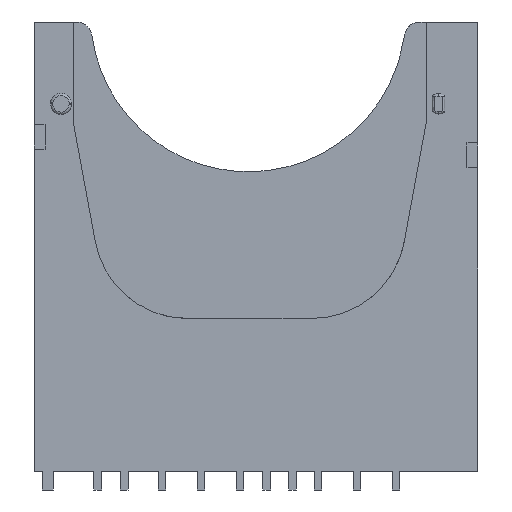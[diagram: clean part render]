
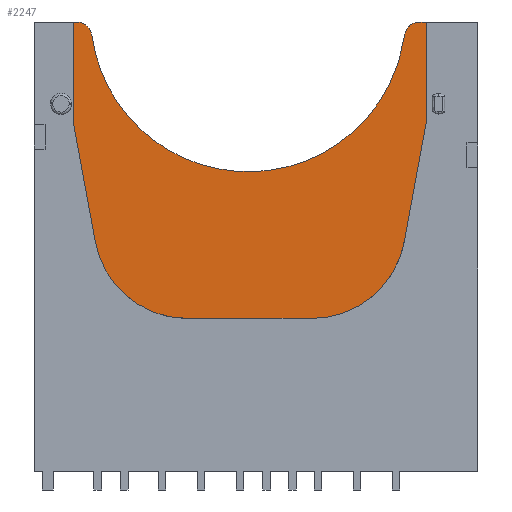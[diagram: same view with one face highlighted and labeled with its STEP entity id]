
A CAD part, front view. The second image highlights one B-rep face of the part: STEP entity #2247.
In plain terms, the highlighted planar face has unit normal (0, -1, 0).
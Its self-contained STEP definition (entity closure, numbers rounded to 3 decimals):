
#1340=CARTESIAN_POINT('Vertex',(358.818,34.14,28.8)) ;
#1368=CARTESIAN_POINT('Vertex',(357.478,34.14,28.8)) ;
#1371=CARTESIAN_POINT('Line Origine',(358.148,34.14,28.8)) ;
#1399=CARTESIAN_POINT('Line Origine',(358.718,34.14,28.7)) ;
#1403=CARTESIAN_POINT('Vertex',(358.618,34.14,28.6)) ;
#1741=CARTESIAN_POINT('Vertex',(334.518,34.14,3.)) ;
#1744=CARTESIAN_POINT('Line Origine',(334.518,34.14,15.8)) ;
#1748=CARTESIAN_POINT('Vertex',(334.518,34.14,28.6)) ;
#1768=CARTESIAN_POINT('Line Origine',(334.418,34.14,28.7)) ;
#1772=CARTESIAN_POINT('Vertex',(334.318,34.14,28.8)) ;
#1839=CARTESIAN_POINT('Vertex',(356.487,34.14,27.936)) ;
#1862=CARTESIAN_POINT('Vertex',(336.449,34.14,27.936)) ;
#1866=CARTESIAN_POINT('Control Point',(356.487,34.14,27.936)) ;
#1867=CARTESIAN_POINT('Control Point',(356.322,34.14,26.739)) ;
#1868=CARTESIAN_POINT('Control Point',(355.559,34.14,24.403)) ;
#1869=CARTESIAN_POINT('Control Point',(353.257,34.14,21.526)) ;
#1870=CARTESIAN_POINT('Control Point',(350.094,34.14,19.638)) ;
#1871=CARTESIAN_POINT('Control Point',(346.468,34.14,18.981)) ;
#1872=CARTESIAN_POINT('Control Point',(342.843,34.14,19.638)) ;
#1873=CARTESIAN_POINT('Control Point',(339.679,34.14,21.526)) ;
#1874=CARTESIAN_POINT('Control Point',(337.377,34.14,24.403)) ;
#1875=CARTESIAN_POINT('Control Point',(336.614,34.14,26.739)) ;
#1876=CARTESIAN_POINT('Control Point',(336.449,34.14,27.936)) ;
#1920=CARTESIAN_POINT('Vertex',(335.459,34.14,28.8)) ;
#1924=CARTESIAN_POINT('Control Point',(335.459,34.14,28.8)) ;
#1925=CARTESIAN_POINT('Control Point',(335.697,34.14,28.8)) ;
#1926=CARTESIAN_POINT('Control Point',(336.174,34.14,28.621)) ;
#1927=CARTESIAN_POINT('Control Point',(336.417,34.14,28.173)) ;
#1928=CARTESIAN_POINT('Control Point',(336.449,34.14,27.936)) ;
#2078=CARTESIAN_POINT('Line Origine',(334.888,34.14,28.8)) ;
#2152=CARTESIAN_POINT('Line Origine',(346.568,34.14,3.)) ;
#2156=CARTESIAN_POINT('Vertex',(358.618,34.14,3.)) ;
#2204=CARTESIAN_POINT('Line Origine',(358.618,34.14,15.8)) ;
#2216=CARTESIAN_POINT('Axis2P3D Location',(346.968,34.14,28.8)) ;
#2222=CARTESIAN_POINT('Control Point',(356.487,34.14,27.936)) ;
#2223=CARTESIAN_POINT('Control Point',(356.5,34.14,28.033)) ;
#2224=CARTESIAN_POINT('Control Point',(356.525,34.14,28.128)) ;
#2225=CARTESIAN_POINT('Control Point',(356.562,34.14,28.22)) ;
#2226=CARTESIAN_POINT('Control Point',(356.658,34.14,28.393)) ;
#2227=CARTESIAN_POINT('Control Point',(356.792,34.14,28.538)) ;
#2228=CARTESIAN_POINT('Control Point',(356.868,34.14,28.601)) ;
#2229=CARTESIAN_POINT('Control Point',(357.027,34.14,28.705)) ;
#2230=CARTESIAN_POINT('Control Point',(357.206,34.14,28.769)) ;
#2231=CARTESIAN_POINT('Control Point',(357.296,34.14,28.79)) ;
#2232=CARTESIAN_POINT('Control Point',(357.387,34.14,28.8)) ;
#2233=CARTESIAN_POINT('Control Point',(357.478,34.14,28.8)) ;
#1372=DIRECTION('Vector Direction',(1.,0.,0.)) ;
#1400=DIRECTION('Vector Direction',(-0.707,0.,-0.707)) ;
#1745=DIRECTION('Vector Direction',(0.,0.,1.)) ;
#1769=DIRECTION('Vector Direction',(-0.707,0.,0.707)) ;
#2079=DIRECTION('Vector Direction',(1.,0.,0.)) ;
#2153=DIRECTION('Vector Direction',(-1.,0.,0.)) ;
#2205=DIRECTION('Vector Direction',(0.,0.,-1.)) ;
#2217=DIRECTION('Axis2P3D Direction',(0.,1.,0.)) ;
#2218=DIRECTION('Axis2P3D XDirection',(0.,0.,1.)) ;
#2219=AXIS2_PLACEMENT_3D('Plane Axis2P3D',#2216,#2217,#2218) ;
#2236=ORIENTED_EDGE('',*,*,#1877,.T.) ;
#2237=ORIENTED_EDGE('',*,*,#1929,.F.) ;
#2238=ORIENTED_EDGE('',*,*,#2082,.F.) ;
#2239=ORIENTED_EDGE('',*,*,#1774,.F.) ;
#2240=ORIENTED_EDGE('',*,*,#1750,.F.) ;
#2241=ORIENTED_EDGE('',*,*,#2158,.F.) ;
#2242=ORIENTED_EDGE('',*,*,#2208,.F.) ;
#2243=ORIENTED_EDGE('',*,*,#1405,.F.) ;
#2244=ORIENTED_EDGE('',*,*,#1375,.F.) ;
#2245=ORIENTED_EDGE('',*,*,#2234,.F.) ;
#1373=VECTOR('Line Direction',#1372,1.) ;
#1401=VECTOR('Line Direction',#1400,1.) ;
#1746=VECTOR('Line Direction',#1745,1.) ;
#1770=VECTOR('Line Direction',#1769,1.) ;
#2080=VECTOR('Line Direction',#2079,1.) ;
#2154=VECTOR('Line Direction',#2153,1.) ;
#2206=VECTOR('Line Direction',#2205,1.) ;
#2247=ADVANCED_FACE('',(#2246),#2220,.F.) ;
#1865=B_SPLINE_CURVE_WITH_KNOTS('',3,(#1866,#1867,#1868,#1869,#1870,#1871,#1872,#1873,#1874,#1875,#1876),.UNSPECIFIED.,.F.,.U.,(4,1,1,1,1,1,1,1,4),(35.082,38.727,42.372,46.018,49.663,53.308,56.954,60.599,64.245),.UNSPECIFIED.) ;
#1923=B_SPLINE_CURVE_WITH_KNOTS('',3,(#1924,#1925,#1926,#1927,#1928),.UNSPECIFIED.,.F.,.U.,(4,1,4),(0.,0.732,1.464),.UNSPECIFIED.) ;
#2221=B_SPLINE_CURVE_WITH_KNOTS('',5,(#2222,#2223,#2224,#2225,#2226,#2227,#2228,#2229,#2230,#2231,#2232,#2233),.UNSPECIFIED.,.F.,.U.,(6,3,3,6),(0.,0.708,1.416,2.073),.UNSPECIFIED.) ;
#1375=EDGE_CURVE('',#1369,#1341,#1374,.T.) ;
#1405=EDGE_CURVE('',#1341,#1404,#1402,.T.) ;
#1750=EDGE_CURVE('',#1742,#1749,#1747,.T.) ;
#1774=EDGE_CURVE('',#1749,#1773,#1771,.T.) ;
#1877=EDGE_CURVE('',#1840,#1863,#1865,.T.) ;
#1929=EDGE_CURVE('',#1921,#1863,#1923,.T.) ;
#2082=EDGE_CURVE('',#1773,#1921,#2081,.T.) ;
#2158=EDGE_CURVE('',#2157,#1742,#2155,.T.) ;
#2208=EDGE_CURVE('',#1404,#2157,#2207,.T.) ;
#2234=EDGE_CURVE('',#1840,#1369,#2221,.T.) ;
#2235=EDGE_LOOP('',(#2236,#2237,#2238,#2239,#2240,#2241,#2242,#2243,#2244,#2245)) ;
#2246=FACE_OUTER_BOUND('',#2235,.T.) ;
#1374=LINE('Line',#1371,#1373) ;
#1402=LINE('Line',#1399,#1401) ;
#1747=LINE('Line',#1744,#1746) ;
#1771=LINE('Line',#1768,#1770) ;
#2081=LINE('Line',#2078,#2080) ;
#2155=LINE('Line',#2152,#2154) ;
#2207=LINE('Line',#2204,#2206) ;
#2220=PLANE('Plane',#2219) ;
#1341=VERTEX_POINT('',#1340) ;
#1369=VERTEX_POINT('',#1368) ;
#1404=VERTEX_POINT('',#1403) ;
#1742=VERTEX_POINT('',#1741) ;
#1749=VERTEX_POINT('',#1748) ;
#1773=VERTEX_POINT('',#1772) ;
#1840=VERTEX_POINT('',#1839) ;
#1863=VERTEX_POINT('',#1862) ;
#1921=VERTEX_POINT('',#1920) ;
#2157=VERTEX_POINT('',#2156) ;
